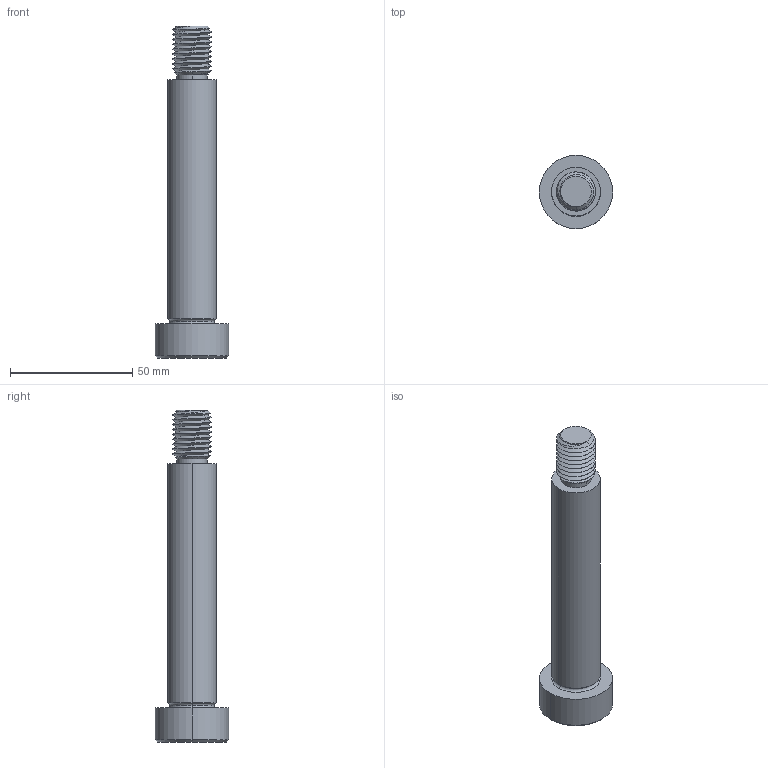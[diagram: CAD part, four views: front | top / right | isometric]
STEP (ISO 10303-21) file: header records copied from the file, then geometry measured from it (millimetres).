
FILE_DESCRIPTION (( 'STEP AP203' ), '1' );
FILE_NAME ('P0130.200-100-B2.step', '2021-11-09T22:27:51', ( '' ), ( '' ), 'SwSTEP 2.0', 'SolidWorks 2019', '' );
FILE_SCHEMA (( 'CONFIG_CONTROL_DESIGN' ));
Length unit declared in the file: millimetre
Products named in the file (1): P0130.200-100-B2
Bounding box: 30 x 30 x 136 mm (x, y, z)
Volume: 43609 mm3; surface area: 11187.1 mm2
Topology: 1 solids, 1 shells, 60 faces, 142 edges, 85 vertices
Faces by surface type: cylinder 24, plane 16, cone 14, torus 4, bspline 2
Entity records: 5678 total; most frequent: CARTESIAN_POINT 4332, ORIENTED_EDGE 280, DIRECTION 247, EDGE_CURVE 140, AXIS2_PLACEMENT_3D 99, VERTEX_POINT 85, EDGE_LOOP 63, ADVANCED_FACE 60
